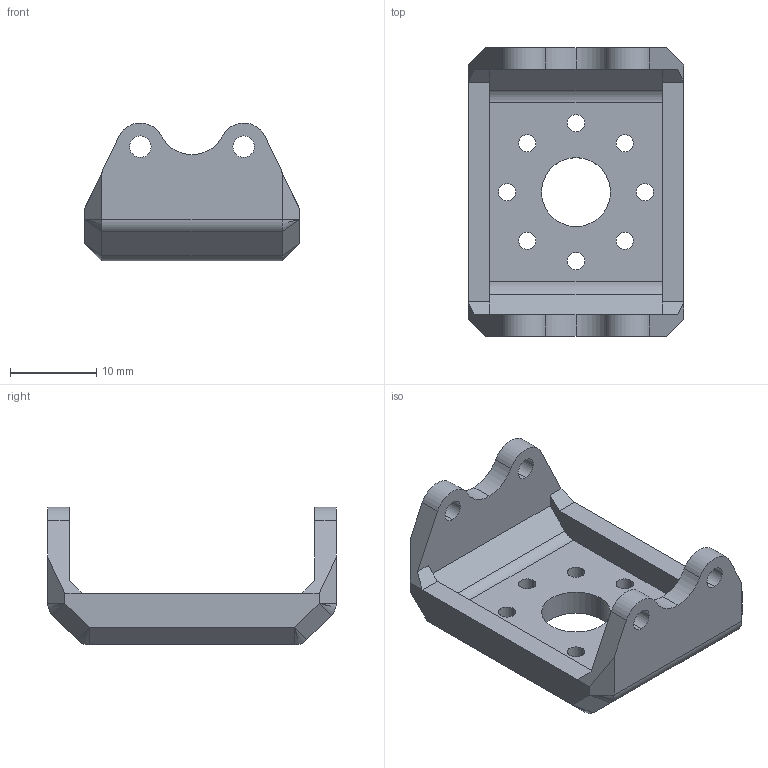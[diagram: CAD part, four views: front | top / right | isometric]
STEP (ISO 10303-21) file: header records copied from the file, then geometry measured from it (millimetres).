
FILE_DESCRIPTION (( 'STEP AP203' ), '1' );
FILE_NAME ('BR01_SHOULDER_BRACKET.STEP');
FILE_SCHEMA (( 'CONFIG_CONTROL_DESIGN' ));
Length unit declared in the file: millimetre
Products named in the file (1): BR01_SHOULDER_BRACKET
Bounding box: 25 x 33.5 x 15.99 mm (x, y, z)
Volume: 3548.3 mm3; surface area: 3204.1 mm2
Topology: 1 solids, 1 shells, 82 faces, 220 edges, 132 vertices
Faces by surface type: cylinder 40, plane 34, cone 8
Entity records: 2621 total; most frequent: DIRECTION 458, CARTESIAN_POINT 427, ORIENTED_EDGE 424, EDGE_CURVE 212, AXIS2_PLACEMENT_3D 163, VECTOR 132, VERTEX_POINT 132, LINE 132
